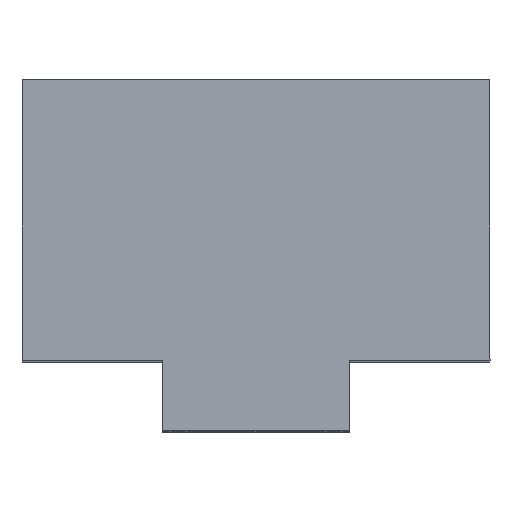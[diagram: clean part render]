
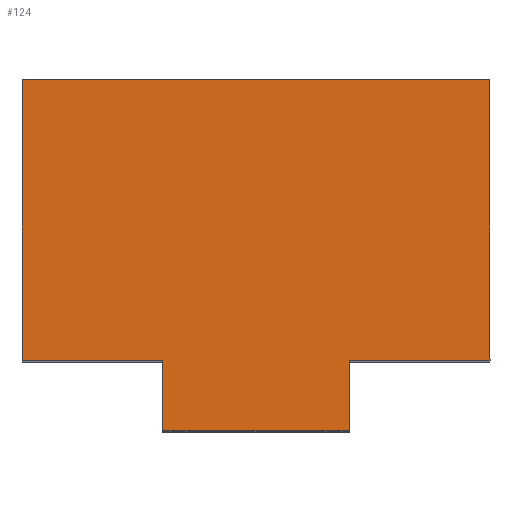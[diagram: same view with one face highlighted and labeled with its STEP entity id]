
A CAD part, top view. The second image highlights one B-rep face of the part: STEP entity #124.
In plain terms, the highlighted planar face has unit normal (0, 0, 1).
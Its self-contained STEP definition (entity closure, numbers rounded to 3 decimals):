
#37 = EDGE_CURVE ( 'NONE', #47, #151, #503, .T. ) ;
#39 = ORIENTED_EDGE ( 'NONE', *, *, #37, .T. ) ;
#47 = VERTEX_POINT ( 'NONE', #686 ) ;
#49 = ORIENTED_EDGE ( 'NONE', *, *, #160, .T. ) ;
#84 = EDGE_CURVE ( 'NONE', #155, #198, #540, .T. ) ;
#102 = EDGE_CURVE ( 'NONE', #198, #184, #541, .T. ) ;
#123 = ORIENTED_EDGE ( 'NONE', *, *, #168, .T. ) ;
#124 = ADVANCED_FACE ( 'NONE', ( #834 ), #829, .T. ) ;
#125 = EDGE_LOOP ( 'NONE', ( #127, #123, #126, #129, #49, #128, #130, #39 ) ) ;
#126 = ORIENTED_EDGE ( 'NONE', *, *, #84, .T. ) ;
#127 = ORIENTED_EDGE ( 'NONE', *, *, #169, .T. ) ;
#128 = ORIENTED_EDGE ( 'NONE', *, *, #175, .T. ) ;
#129 = ORIENTED_EDGE ( 'NONE', *, *, #102, .T. ) ;
#130 = ORIENTED_EDGE ( 'NONE', *, *, #133, .T. ) ;
#133 = EDGE_CURVE ( 'NONE', #162, #47, #912, .T. ) ;
#151 = VERTEX_POINT ( 'NONE', #857 ) ;
#155 = VERTEX_POINT ( 'NONE', #853 ) ;
#159 = VERTEX_POINT ( 'NONE', #766 ) ;
#160 = EDGE_CURVE ( 'NONE', #184, #159, #717, .T. ) ;
#162 = VERTEX_POINT ( 'NONE', #760 ) ;
#166 = VERTEX_POINT ( 'NONE', #901 ) ;
#168 = EDGE_CURVE ( 'NONE', #166, #155, #896, .T. ) ;
#169 = EDGE_CURVE ( 'NONE', #151, #166, #892, .T. ) ;
#175 = EDGE_CURVE ( 'NONE', #159, #162, #878, .T. ) ;
#184 = VERTEX_POINT ( 'NONE', #823 ) ;
#198 = VERTEX_POINT ( 'NONE', #705 ) ;
#462 = VECTOR ( 'NONE', #584, 1000. ) ;
#463 = CARTESIAN_POINT ( 'NONE',  ( 4., 3., 45. ) ) ;
#467 = DIRECTION ( 'NONE',  ( 0., 1., 0. ) ) ;
#468 = VECTOR ( 'NONE', #467, 1000. ) ;
#469 = CARTESIAN_POINT ( 'NONE',  ( 4., 0., 45. ) ) ;
#502 = CARTESIAN_POINT ( 'NONE',  ( -4., 3., 45. ) ) ;
#503 = LINE ( 'NONE', #502, #690 ) ;
#540 = LINE ( 'NONE', #469, #468 ) ;
#541 = LINE ( 'NONE', #463, #462 ) ;
#584 = DIRECTION ( 'NONE',  ( 1., 0., 0. ) ) ;
#686 = CARTESIAN_POINT ( 'NONE',  ( -10., 3., 45. ) ) ;
#689 = DIRECTION ( 'NONE',  ( 1., 0., 0. ) ) ;
#690 = VECTOR ( 'NONE', #689, 1000. ) ;
#705 = CARTESIAN_POINT ( 'NONE',  ( 4., 3., 45. ) ) ;
#710 = CARTESIAN_POINT ( 'NONE',  ( -10., 3., 45. ) ) ;
#711 = CARTESIAN_POINT ( 'NONE',  ( -4., 0., 45. ) ) ;
#715 = DIRECTION ( 'NONE',  ( 0., 1., 0. ) ) ;
#716 = VECTOR ( 'NONE', #715, 1000. ) ;
#717 = LINE ( 'NONE', #759, #716 ) ;
#759 = CARTESIAN_POINT ( 'NONE',  ( 10., 3., 45. ) ) ;
#760 = CARTESIAN_POINT ( 'NONE',  ( -10., 15., 45. ) ) ;
#766 = CARTESIAN_POINT ( 'NONE',  ( 10., 15., 45. ) ) ;
#784 = CARTESIAN_POINT ( 'NONE',  ( -4., 3., 45. ) ) ;
#823 = CARTESIAN_POINT ( 'NONE',  ( 10., 3., 45. ) ) ;
#829 = PLANE ( 'NONE',  #833 ) ;
#833 = AXIS2_PLACEMENT_3D ( 'NONE', #784, #906, #905 ) ;
#834 = FACE_OUTER_BOUND ( 'NONE', #125, .T. ) ;
#853 = CARTESIAN_POINT ( 'NONE',  ( 4., 0., 45. ) ) ;
#857 = CARTESIAN_POINT ( 'NONE',  ( -4., 3., 45. ) ) ;
#876 = CARTESIAN_POINT ( 'NONE',  ( -10., 15., 45. ) ) ;
#877 = VECTOR ( 'NONE', #893, 1000. ) ;
#878 = LINE ( 'NONE', #876, #877 ) ;
#889 = DIRECTION ( 'NONE',  ( 0., -1., 0. ) ) ;
#890 = VECTOR ( 'NONE', #889, 1000. ) ;
#891 = CARTESIAN_POINT ( 'NONE',  ( -4., 0., 45. ) ) ;
#892 = LINE ( 'NONE', #891, #890 ) ;
#893 = DIRECTION ( 'NONE',  ( -1., 0., 0. ) ) ;
#894 = DIRECTION ( 'NONE',  ( 1., 0., 0. ) ) ;
#895 = VECTOR ( 'NONE', #894, 1000. ) ;
#896 = LINE ( 'NONE', #711, #895 ) ;
#901 = CARTESIAN_POINT ( 'NONE',  ( -4., 0., 45. ) ) ;
#905 = DIRECTION ( 'NONE',  ( 1., 0., 0. ) ) ;
#906 = DIRECTION ( 'NONE',  ( 0., 0., 1. ) ) ;
#910 = DIRECTION ( 'NONE',  ( 0., -1., 0. ) ) ;
#911 = VECTOR ( 'NONE', #910, 1000. ) ;
#912 = LINE ( 'NONE', #710, #911 ) ;
